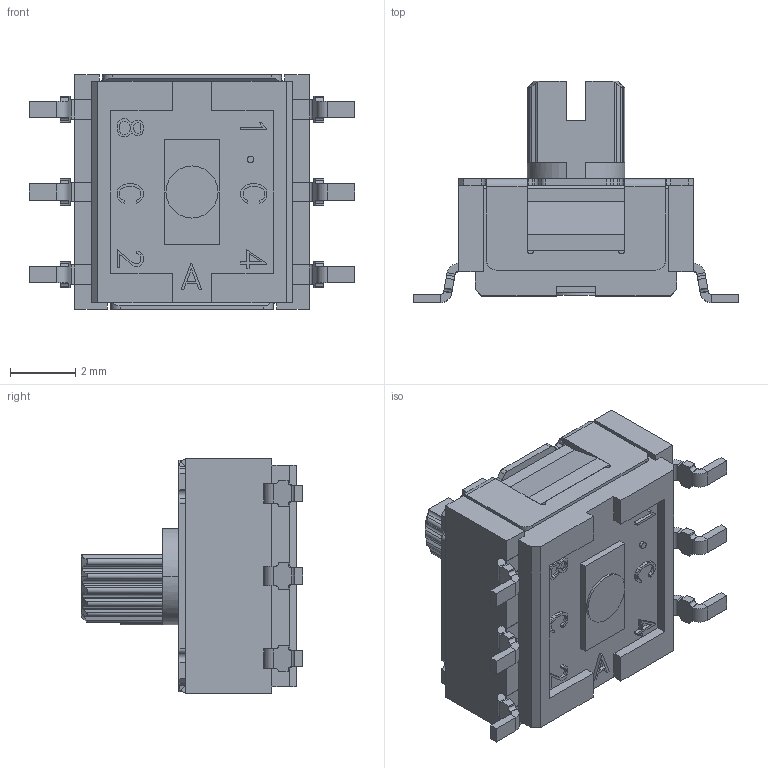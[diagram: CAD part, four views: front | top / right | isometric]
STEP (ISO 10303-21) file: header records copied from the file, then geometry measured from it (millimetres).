
FILE_DESCRIPTION (( 'STEP AP203' ), '1' );
FILE_NAME ('RSH-2FRM.STEP', '2019-07-05T06:19:05', ( '' ), ( '' ), 'SwSTEP 2.0', 'SolidWorks 2017', '' );
FILE_SCHEMA (( 'CONFIG_CONTROL_DESIGN' ));
Length unit declared in the file: millimetre
Products named in the file (6): RSH-B01; RSH-C01_16P; RSH-2FRM; RSH-T01_SMT(6 PIN); ROTOR16_No.2; RSH-B01_SMT(6 PIN)
Assembly tree (5 placements, depth 3):
  RSH-2FRM
    RSH-B01_SMT(6 PIN)
      RSH-B01
      RSH-T01_SMT(6 PIN)
    RSH-C01_16P
    ROTOR16_No.2
Bounding box: 10 x 6.8 x 7.2 mm (x, y, z)
Volume: 154.6 mm3; surface area: 681.3 mm2
Topology: 4 solids, 4 shells, 1477 faces, 4067 edges, 2630 vertices
Faces by surface type: plane 965, cylinder 390, bspline 117, cone 5
Entity records: 53976 total; most frequent: CARTESIAN_POINT 16387, ORIENTED_EDGE 8134, DIRECTION 7132, EDGE_CURVE 4067, LINE 2766, VECTOR 2766, VERTEX_POINT 2630, AXIS2_PLACEMENT_3D 2183
